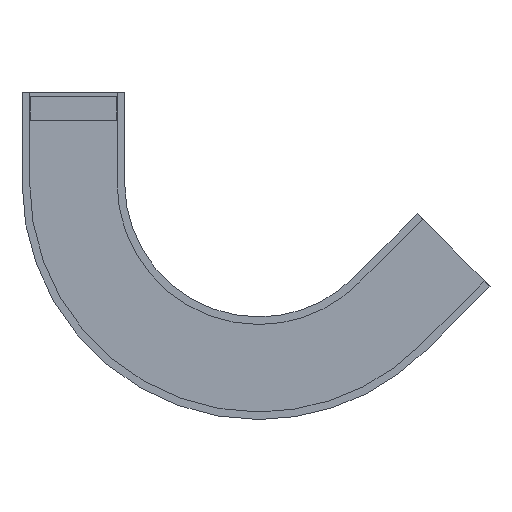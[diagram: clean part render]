
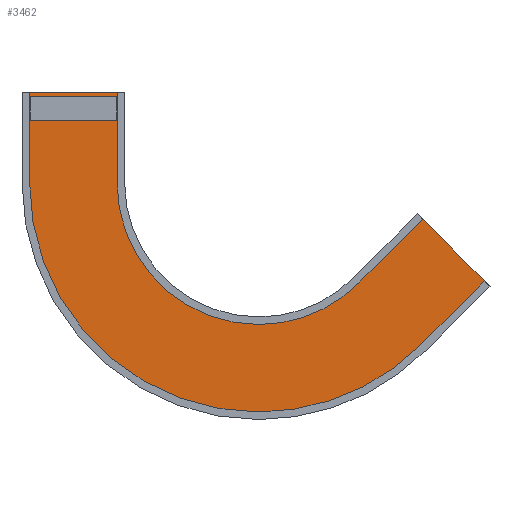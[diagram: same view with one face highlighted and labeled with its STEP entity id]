
A CAD part, front view. The second image highlights one B-rep face of the part: STEP entity #3462.
In plain terms, the highlighted planar face has unit normal (0, -1, 0).
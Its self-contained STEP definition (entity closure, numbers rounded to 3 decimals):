
#27 = VERTEX_POINT ( 'NONE', #3639 ) ;
#73 = VERTEX_POINT ( 'NONE', #4043 ) ;
#209 = DIRECTION ( 'NONE',  ( 0.707, 0., 0.707 ) ) ;
#210 = CARTESIAN_POINT ( 'NONE',  ( 778.403, -57.525, -568.403 ) ) ;
#253 = DIRECTION ( 'NONE',  ( 0., 0., -1. ) ) ;
#257 = DIRECTION ( 'NONE',  ( 0., -1., 0. ) ) ;
#260 = CARTESIAN_POINT ( 'NONE',  ( 410., -57.525, -200. ) ) ;
#277 = DIRECTION ( 'NONE',  ( 0.707, 0., 0.707 ) ) ;
#278 = CARTESIAN_POINT ( 'NONE',  ( 621.425, -57.525, -411.425 ) ) ;
#286 = DIRECTION ( 'NONE',  ( 0., 0., -1. ) ) ;
#289 = DIRECTION ( 'NONE',  ( 0., -1., 0. ) ) ;
#291 = CARTESIAN_POINT ( 'NONE',  ( 410., -57.525, -200. ) ) ;
#935 = ORIENTED_EDGE ( 'NONE', *, *, #6989, .F. ) ;
#936 = ORIENTED_EDGE ( 'NONE', *, *, #6971, .F. ) ;
#937 = ORIENTED_EDGE ( 'NONE', *, *, #7132, .T. ) ;
#1477 = EDGE_LOOP ( 'NONE', ( #935, #936, #937, #5980, #5981, #5982, #5983, #5984, #5985, #5986 ) ) ;
#1767 = DIRECTION ( 'NONE',  ( 0., 0., -1. ) ) ;
#1770 = DIRECTION ( 'NONE',  ( 0., -1., 0. ) ) ;
#1773 = CARTESIAN_POINT ( 'NONE',  ( 410., -57.525, -200. ) ) ;
#1824 = EDGE_CURVE ( 'NONE', #73, #3843, #5592, .T. ) ;
#2366 = VECTOR ( 'NONE', #209, 1000. ) ;
#2367 = LINE ( 'NONE', #210, #2366 ) ;
#2407 = VECTOR ( 'NONE', #277, 1000. ) ;
#2408 = LINE ( 'NONE', #278, #2407 ) ;
#2727 = CIRCLE ( 'NONE', #4287, 299. ) ;
#2733 = CIRCLE ( 'NONE', #4289, 521. ) ;
#2974 = DIRECTION ( 'NONE',  ( 1., 0., 0. ) ) ;
#2975 = CARTESIAN_POINT ( 'NONE',  ( 111., -57.525, 0. ) ) ;
#2976 = DIRECTION ( 'NONE',  ( 0., 0., 1. ) ) ;
#2977 = CARTESIAN_POINT ( 'NONE',  ( 111., -57.525, -200. ) ) ;
#2991 = DIRECTION ( 'NONE',  ( 0., 0., -1. ) ) ;
#2992 = DIRECTION ( 'NONE',  ( 0., -1., 0. ) ) ;
#2993 = CARTESIAN_POINT ( 'NONE',  ( 410., -57.525, -200. ) ) ;
#3015 = DIRECTION ( 'NONE',  ( 0., 0., 1. ) ) ;
#3017 = CARTESIAN_POINT ( 'NONE',  ( -111., -57.525, -200. ) ) ;
#3129 = CARTESIAN_POINT ( 'NONE',  ( 762.846, -57.525, -270.004 ) ) ;
#3133 = CARTESIAN_POINT ( 'NONE',  ( 410., -57.525, -721. ) ) ;
#3204 = CARTESIAN_POINT ( 'NONE',  ( -111., -57.525, 0. ) ) ;
#3326 = CARTESIAN_POINT ( 'NONE',  ( -111., -57.525, -200. ) ) ;
#3377 = CARTESIAN_POINT ( 'NONE',  ( 410., -57.525, -499. ) ) ;
#3398 = CARTESIAN_POINT ( 'NONE',  ( 778.403, -57.525, -568.403 ) ) ;
#3462 = ADVANCED_FACE ( 'NONE', ( #5374 ), #6667, .T. ) ;
#3590 = VERTEX_POINT ( 'NONE', #6271 ) ;
#3615 = VERTEX_POINT ( 'NONE', #6252 ) ;
#3639 = CARTESIAN_POINT ( 'NONE',  ( 621.425, -57.525, -411.425 ) ) ;
#3708 = VERTEX_POINT ( 'NONE', #3133 ) ;
#3751 = VERTEX_POINT ( 'NONE', #3204 ) ;
#3843 = VERTEX_POINT ( 'NONE', #3129 ) ;
#3885 = VERTEX_POINT ( 'NONE', #3398 ) ;
#3901 = VERTEX_POINT ( 'NONE', #3377 ) ;
#3944 = VERTEX_POINT ( 'NONE', #3326 ) ;
#4012 = DIRECTION ( 'NONE',  ( -0.707, 0., 0.707 ) ) ;
#4043 = CARTESIAN_POINT ( 'NONE',  ( 919.824, -57.525, -426.981 ) ) ;
#4073 = CARTESIAN_POINT ( 'NONE',  ( 762.846, -57.525, -270.004 ) ) ;
#4287 = AXIS2_PLACEMENT_3D ( 'NONE', #260, #257, #253 ) ;
#4289 = AXIS2_PLACEMENT_3D ( 'NONE', #291, #289, #286 ) ;
#4327 = AXIS2_PLACEMENT_3D ( 'NONE', #1773, #1770, #1767 ) ;
#4386 = AXIS2_PLACEMENT_3D ( 'NONE', #2993, #2992, #2991 ) ;
#4506 = AXIS2_PLACEMENT_3D ( 'NONE', #6666, #6665, #6664 ) ;
#4996 = CIRCLE ( 'NONE', #4327, 521. ) ;
#5267 = VECTOR ( 'NONE', #2974, 1000. ) ;
#5268 = LINE ( 'NONE', #2975, #5267 ) ;
#5269 = VECTOR ( 'NONE', #2976, 1000. ) ;
#5270 = LINE ( 'NONE', #2977, #5269 ) ;
#5282 = CIRCLE ( 'NONE', #4386, 299. ) ;
#5302 = VECTOR ( 'NONE', #3015, 1000. ) ;
#5303 = LINE ( 'NONE', #3017, #5302 ) ;
#5374 = FACE_OUTER_BOUND ( 'NONE', #1477, .T. ) ;
#5588 = VECTOR ( 'NONE', #4012, 1000. ) ;
#5592 = LINE ( 'NONE', #4073, #5588 ) ;
#5980 = ORIENTED_EDGE ( 'NONE', *, *, #7426, .T. ) ;
#5981 = ORIENTED_EDGE ( 'NONE', *, *, #7670, .T. ) ;
#5982 = ORIENTED_EDGE ( 'NONE', *, *, #1824, .T. ) ;
#5983 = ORIENTED_EDGE ( 'NONE', *, *, #7648, .F. ) ;
#5984 = ORIENTED_EDGE ( 'NONE', *, *, #6981, .F. ) ;
#5985 = ORIENTED_EDGE ( 'NONE', *, *, #7443, .F. ) ;
#5986 = ORIENTED_EDGE ( 'NONE', *, *, #6988, .T. ) ;
#6252 = CARTESIAN_POINT ( 'NONE',  ( 111., -57.525, 0. ) ) ;
#6271 = CARTESIAN_POINT ( 'NONE',  ( 111., -57.525, -200. ) ) ;
#6664 = DIRECTION ( 'NONE',  ( 1., 0., 0. ) ) ;
#6665 = DIRECTION ( 'NONE',  ( 0., -1., 0. ) ) ;
#6666 = CARTESIAN_POINT ( 'NONE',  ( 111., -57.525, -200. ) ) ;
#6667 = PLANE ( 'NONE',  #4506 ) ;
#6971 = EDGE_CURVE ( 'NONE', #3944, #3751, #5303, .T. ) ;
#6981 = EDGE_CURVE ( 'NONE', #3901, #27, #5282, .T. ) ;
#6988 = EDGE_CURVE ( 'NONE', #3590, #3615, #5270, .T. ) ;
#6989 = EDGE_CURVE ( 'NONE', #3751, #3615, #5268, .T. ) ;
#7132 = EDGE_CURVE ( 'NONE', #3944, #3708, #4996, .T. ) ;
#7426 = EDGE_CURVE ( 'NONE', #3708, #3885, #2733, .T. ) ;
#7443 = EDGE_CURVE ( 'NONE', #3590, #3901, #2727, .T. ) ;
#7648 = EDGE_CURVE ( 'NONE', #27, #3843, #2408, .T. ) ;
#7670 = EDGE_CURVE ( 'NONE', #3885, #73, #2367, .T. ) ;
